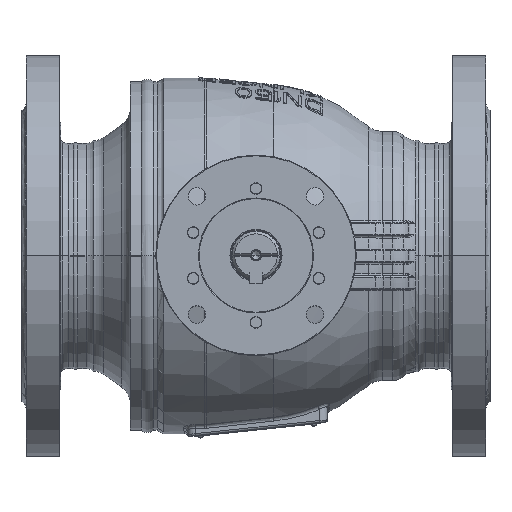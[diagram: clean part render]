
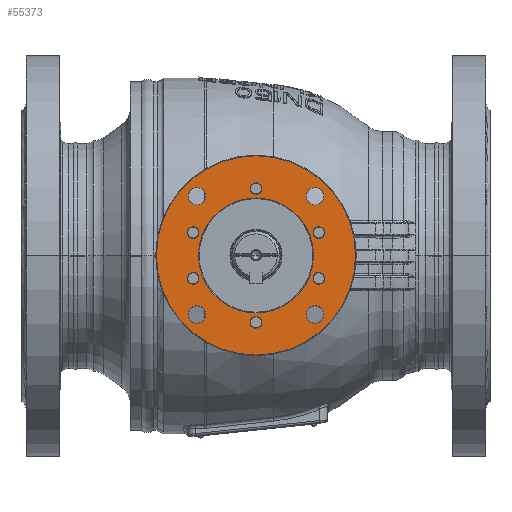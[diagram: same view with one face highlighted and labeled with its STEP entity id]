
A CAD part, top view. The second image highlights one B-rep face of the part: STEP entity #55373.
In plain terms, the highlighted planar face has unit normal (0, 0, 1).
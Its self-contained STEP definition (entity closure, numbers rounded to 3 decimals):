
#18018=CARTESIAN_POINT('',(0.,0.,245.5));
#18019=DIRECTION('',(0.,0.,1.));
#18020=DIRECTION('',(1.,0.,0.));
#18021=AXIS2_PLACEMENT_3D('',#18018,#18019,#18020);
#18023=CARTESIAN_POINT('',(0.,0.,245.5));
#18024=DIRECTION('',(0.,0.,1.));
#18025=DIRECTION('',(-1.,0.,0.));
#18026=AXIS2_PLACEMENT_3D('',#18023,#18024,#18025);
#18028=CARTESIAN_POINT('',(44.194,44.194,245.5));
#18029=DIRECTION('',(0.,0.,-1.));
#18030=DIRECTION('',(-1.,0.,0.));
#18031=AXIS2_PLACEMENT_3D('',#18028,#18029,#18030);
#18033=CARTESIAN_POINT('',(44.194,44.194,245.5));
#18034=DIRECTION('',(0.,0.,-1.));
#18035=DIRECTION('',(1.,0.,0.));
#18036=AXIS2_PLACEMENT_3D('',#18033,#18034,#18035);
#18038=CARTESIAN_POINT('',(-44.194,44.194,245.5));
#18039=DIRECTION('',(0.,0.,-1.));
#18040=DIRECTION('',(-1.,0.,0.));
#18041=AXIS2_PLACEMENT_3D('',#18038,#18039,#18040);
#18043=CARTESIAN_POINT('',(-44.194,44.194,245.5));
#18044=DIRECTION('',(0.,0.,-1.));
#18045=DIRECTION('',(1.,0.,0.));
#18046=AXIS2_PLACEMENT_3D('',#18043,#18044,#18045);
#18048=CARTESIAN_POINT('',(-44.194,-44.194,245.5));
#18049=DIRECTION('',(0.,0.,-1.));
#18050=DIRECTION('',(-1.,0.,0.));
#18051=AXIS2_PLACEMENT_3D('',#18048,#18049,#18050);
#18053=CARTESIAN_POINT('',(-44.194,-44.194,245.5));
#18054=DIRECTION('',(0.,0.,-1.));
#18055=DIRECTION('',(1.,0.,0.));
#18056=AXIS2_PLACEMENT_3D('',#18053,#18054,#18055);
#18058=CARTESIAN_POINT('',(44.194,-44.194,245.5));
#18059=DIRECTION('',(0.,0.,-1.));
#18060=DIRECTION('',(-1.,0.,0.));
#18061=AXIS2_PLACEMENT_3D('',#18058,#18059,#18060);
#18063=CARTESIAN_POINT('',(44.194,-44.194,245.5));
#18064=DIRECTION('',(0.,0.,-1.));
#18065=DIRECTION('',(1.,0.,0.));
#18066=AXIS2_PLACEMENT_3D('',#18063,#18064,#18065);
#18068=CARTESIAN_POINT('',(46.985,17.101,245.5));
#18069=DIRECTION('',(0.,0.,-1.));
#18070=DIRECTION('',(-1.,0.,0.));
#18071=AXIS2_PLACEMENT_3D('',#18068,#18069,#18070);
#18073=CARTESIAN_POINT('',(46.985,17.101,245.5));
#18074=DIRECTION('',(0.,0.,-1.));
#18075=DIRECTION('',(1.,0.,0.));
#18076=AXIS2_PLACEMENT_3D('',#18073,#18074,#18075);
#18078=CARTESIAN_POINT('',(0.,50.,245.5));
#18079=DIRECTION('',(0.,0.,-1.));
#18080=DIRECTION('',(-1.,0.,0.));
#18081=AXIS2_PLACEMENT_3D('',#18078,#18079,#18080);
#18083=CARTESIAN_POINT('',(0.,50.,245.5));
#18084=DIRECTION('',(0.,0.,-1.));
#18085=DIRECTION('',(1.,0.,0.));
#18086=AXIS2_PLACEMENT_3D('',#18083,#18084,#18085);
#18088=CARTESIAN_POINT('',(-46.985,17.101,245.5));
#18089=DIRECTION('',(0.,0.,-1.));
#18090=DIRECTION('',(-1.,0.,0.));
#18091=AXIS2_PLACEMENT_3D('',#18088,#18089,#18090);
#18093=CARTESIAN_POINT('',(-46.985,17.101,245.5));
#18094=DIRECTION('',(0.,0.,-1.));
#18095=DIRECTION('',(1.,0.,0.));
#18096=AXIS2_PLACEMENT_3D('',#18093,#18094,#18095);
#18098=CARTESIAN_POINT('',(-46.985,-17.101,245.5));
#18099=DIRECTION('',(0.,0.,-1.));
#18100=DIRECTION('',(-1.,0.,0.));
#18101=AXIS2_PLACEMENT_3D('',#18098,#18099,#18100);
#18103=CARTESIAN_POINT('',(-46.985,-17.101,245.5));
#18104=DIRECTION('',(0.,0.,-1.));
#18105=DIRECTION('',(1.,0.,0.));
#18106=AXIS2_PLACEMENT_3D('',#18103,#18104,#18105);
#18108=CARTESIAN_POINT('',(0.,-50.,245.5));
#18109=DIRECTION('',(0.,0.,-1.));
#18110=DIRECTION('',(-1.,0.,0.));
#18111=AXIS2_PLACEMENT_3D('',#18108,#18109,#18110);
#18113=CARTESIAN_POINT('',(0.,-50.,245.5));
#18114=DIRECTION('',(0.,0.,-1.));
#18115=DIRECTION('',(1.,0.,0.));
#18116=AXIS2_PLACEMENT_3D('',#18113,#18114,#18115);
#18118=CARTESIAN_POINT('',(46.985,-17.101,245.5));
#18119=DIRECTION('',(0.,0.,-1.));
#18120=DIRECTION('',(-1.,0.,0.));
#18121=AXIS2_PLACEMENT_3D('',#18118,#18119,#18120);
#18123=CARTESIAN_POINT('',(46.985,-17.101,245.5));
#18124=DIRECTION('',(0.,0.,-1.));
#18125=DIRECTION('',(1.,0.,0.));
#18126=AXIS2_PLACEMENT_3D('',#18123,#18124,#18125);
#18128=CARTESIAN_POINT('',(0.,0.,245.5));
#18129=DIRECTION('',(0.,0.,1.));
#18130=DIRECTION('',(-1.,0.,0.));
#18131=AXIS2_PLACEMENT_3D('',#18128,#18129,#18130);
#18133=CARTESIAN_POINT('',(0.,0.,245.5));
#18134=DIRECTION('',(0.,0.,1.));
#18135=DIRECTION('',(1.,0.,0.));
#18136=AXIS2_PLACEMENT_3D('',#18133,#18134,#18135);
#24974=CARTESIAN_POINT('',(37.694,44.194,245.5));
#24975=CARTESIAN_POINT('',(50.694,44.194,245.5));
#24976=VERTEX_POINT('',#24974);
#24977=VERTEX_POINT('',#24975);
#24982=CARTESIAN_POINT('',(-50.694,44.194,245.5));
#24983=CARTESIAN_POINT('',(-37.694,44.194,245.5));
#24984=VERTEX_POINT('',#24982);
#24985=VERTEX_POINT('',#24983);
#24990=CARTESIAN_POINT('',(-50.694,-44.194,245.5));
#24991=CARTESIAN_POINT('',(-37.694,-44.194,245.5));
#24992=VERTEX_POINT('',#24990);
#24993=VERTEX_POINT('',#24991);
#24998=CARTESIAN_POINT('',(37.694,-44.194,245.5));
#24999=CARTESIAN_POINT('',(50.694,-44.194,245.5));
#25000=VERTEX_POINT('',#24998);
#25001=VERTEX_POINT('',#24999);
#25018=CARTESIAN_POINT('',(-43.,0.,245.5));
#25019=CARTESIAN_POINT('',(43.,0.,245.5));
#25020=VERTEX_POINT('',#25018);
#25021=VERTEX_POINT('',#25019);
#25022=CARTESIAN_POINT('',(42.635,17.101,245.5));
#25023=CARTESIAN_POINT('',(51.335,17.101,245.5));
#25024=VERTEX_POINT('',#25022);
#25025=VERTEX_POINT('',#25023);
#25026=CARTESIAN_POINT('',(-4.35,50.,245.5));
#25027=CARTESIAN_POINT('',(4.35,50.,245.5));
#25028=VERTEX_POINT('',#25026);
#25029=VERTEX_POINT('',#25027);
#25030=CARTESIAN_POINT('',(-51.335,17.101,245.5));
#25031=CARTESIAN_POINT('',(-42.635,17.101,245.5));
#25032=VERTEX_POINT('',#25030);
#25033=VERTEX_POINT('',#25031);
#25034=CARTESIAN_POINT('',(-51.335,-17.101,245.5));
#25035=CARTESIAN_POINT('',(-42.635,-17.101,245.5));
#25036=VERTEX_POINT('',#25034);
#25037=VERTEX_POINT('',#25035);
#25038=CARTESIAN_POINT('',(-4.35,-50.,245.5));
#25039=CARTESIAN_POINT('',(4.35,-50.,245.5));
#25040=VERTEX_POINT('',#25038);
#25041=VERTEX_POINT('',#25039);
#25042=CARTESIAN_POINT('',(42.635,-17.101,245.5));
#25043=CARTESIAN_POINT('',(51.335,-17.101,245.5));
#25044=VERTEX_POINT('',#25042);
#25045=VERTEX_POINT('',#25043);
#25046=CARTESIAN_POINT('',(74.5,0.,245.5));
#25047=CARTESIAN_POINT('',(-74.5,0.,245.5));
#25048=VERTEX_POINT('',#25046);
#25049=VERTEX_POINT('',#25047);
#55298=CARTESIAN_POINT('',(0.,0.,245.5));
#55299=DIRECTION('',(0.,0.,-1.));
#55300=DIRECTION('',(-1.,0.,0.));
#55301=AXIS2_PLACEMENT_3D('',#55298,#55299,#55300);
#55302=PLANE('',#55301);
#55304=ORIENTED_EDGE('',*,*,#55303,.F.);
#55306=ORIENTED_EDGE('',*,*,#55305,.F.);
#55307=EDGE_LOOP('',(#55304,#55306));
#55308=FACE_OUTER_BOUND('',#55307,.F.);
#55310=ORIENTED_EDGE('',*,*,#55309,.F.);
#55312=ORIENTED_EDGE('',*,*,#55311,.F.);
#55313=EDGE_LOOP('',(#55310,#55312));
#55314=FACE_BOUND('',#55313,.F.);
#55316=ORIENTED_EDGE('',*,*,#55315,.F.);
#55318=ORIENTED_EDGE('',*,*,#55317,.F.);
#55319=EDGE_LOOP('',(#55316,#55318));
#55320=FACE_BOUND('',#55319,.F.);
#55322=ORIENTED_EDGE('',*,*,#55321,.F.);
#55324=ORIENTED_EDGE('',*,*,#55323,.F.);
#55325=EDGE_LOOP('',(#55322,#55324));
#55326=FACE_BOUND('',#55325,.F.);
#55328=ORIENTED_EDGE('',*,*,#55327,.F.);
#55330=ORIENTED_EDGE('',*,*,#55329,.F.);
#55331=EDGE_LOOP('',(#55328,#55330));
#55332=FACE_BOUND('',#55331,.F.);
#55334=ORIENTED_EDGE('',*,*,#55333,.F.);
#55336=ORIENTED_EDGE('',*,*,#55335,.F.);
#55337=EDGE_LOOP('',(#55334,#55336));
#55338=FACE_BOUND('',#55337,.F.);
#55340=ORIENTED_EDGE('',*,*,#55339,.F.);
#55342=ORIENTED_EDGE('',*,*,#55341,.F.);
#55343=EDGE_LOOP('',(#55340,#55342));
#55344=FACE_BOUND('',#55343,.F.);
#55346=ORIENTED_EDGE('',*,*,#55345,.F.);
#55348=ORIENTED_EDGE('',*,*,#55347,.F.);
#55349=EDGE_LOOP('',(#55346,#55348));
#55350=FACE_BOUND('',#55349,.F.);
#55352=ORIENTED_EDGE('',*,*,#55351,.F.);
#55354=ORIENTED_EDGE('',*,*,#55353,.F.);
#55355=EDGE_LOOP('',(#55352,#55354));
#55356=FACE_BOUND('',#55355,.F.);
#55358=ORIENTED_EDGE('',*,*,#55357,.F.);
#55360=ORIENTED_EDGE('',*,*,#55359,.F.);
#55361=EDGE_LOOP('',(#55358,#55360));
#55362=FACE_BOUND('',#55361,.F.);
#55364=ORIENTED_EDGE('',*,*,#55363,.F.);
#55366=ORIENTED_EDGE('',*,*,#55365,.F.);
#55367=EDGE_LOOP('',(#55364,#55366));
#55368=FACE_BOUND('',#55367,.F.);
#55369=ORIENTED_EDGE('',*,*,#55280,.T.);
#55370=ORIENTED_EDGE('',*,*,#55265,.T.);
#55371=EDGE_LOOP('',(#55369,#55370));
#55372=FACE_BOUND('',#55371,.F.);
#55373=ADVANCED_FACE('',(#55308,#55314,#55320,#55326,#55332,#55338,#55344,
#55350,#55356,#55362,#55368,#55372),#55302,.F.);
#18022=CIRCLE('',#18021,74.5);
#18027=CIRCLE('',#18026,74.5);
#18032=CIRCLE('',#18031,6.5);
#18037=CIRCLE('',#18036,6.5);
#18042=CIRCLE('',#18041,6.5);
#18047=CIRCLE('',#18046,6.5);
#18052=CIRCLE('',#18051,6.5);
#18057=CIRCLE('',#18056,6.5);
#18062=CIRCLE('',#18061,6.5);
#18067=CIRCLE('',#18066,6.5);
#18072=CIRCLE('',#18071,4.35);
#18077=CIRCLE('',#18076,4.35);
#18082=CIRCLE('',#18081,4.35);
#18087=CIRCLE('',#18086,4.35);
#18092=CIRCLE('',#18091,4.35);
#18097=CIRCLE('',#18096,4.35);
#18102=CIRCLE('',#18101,4.35);
#18107=CIRCLE('',#18106,4.35);
#18112=CIRCLE('',#18111,4.35);
#18117=CIRCLE('',#18116,4.35);
#18122=CIRCLE('',#18121,4.35);
#18127=CIRCLE('',#18126,4.35);
#18132=CIRCLE('',#18131,43.);
#18137=CIRCLE('',#18136,43.);
#55265=EDGE_CURVE('',#25021,#25020,#18137,.T.);
#55280=EDGE_CURVE('',#25020,#25021,#18132,.T.);
#55303=EDGE_CURVE('',#25048,#25049,#18022,.T.);
#55305=EDGE_CURVE('',#25049,#25048,#18027,.T.);
#55309=EDGE_CURVE('',#24976,#24977,#18032,.T.);
#55311=EDGE_CURVE('',#24977,#24976,#18037,.T.);
#55315=EDGE_CURVE('',#24984,#24985,#18042,.T.);
#55317=EDGE_CURVE('',#24985,#24984,#18047,.T.);
#55321=EDGE_CURVE('',#24992,#24993,#18052,.T.);
#55323=EDGE_CURVE('',#24993,#24992,#18057,.T.);
#55327=EDGE_CURVE('',#25000,#25001,#18062,.T.);
#55329=EDGE_CURVE('',#25001,#25000,#18067,.T.);
#55333=EDGE_CURVE('',#25024,#25025,#18072,.T.);
#55335=EDGE_CURVE('',#25025,#25024,#18077,.T.);
#55339=EDGE_CURVE('',#25028,#25029,#18082,.T.);
#55341=EDGE_CURVE('',#25029,#25028,#18087,.T.);
#55345=EDGE_CURVE('',#25032,#25033,#18092,.T.);
#55347=EDGE_CURVE('',#25033,#25032,#18097,.T.);
#55351=EDGE_CURVE('',#25036,#25037,#18102,.T.);
#55353=EDGE_CURVE('',#25037,#25036,#18107,.T.);
#55357=EDGE_CURVE('',#25040,#25041,#18112,.T.);
#55359=EDGE_CURVE('',#25041,#25040,#18117,.T.);
#55363=EDGE_CURVE('',#25044,#25045,#18122,.T.);
#55365=EDGE_CURVE('',#25045,#25044,#18127,.T.);
